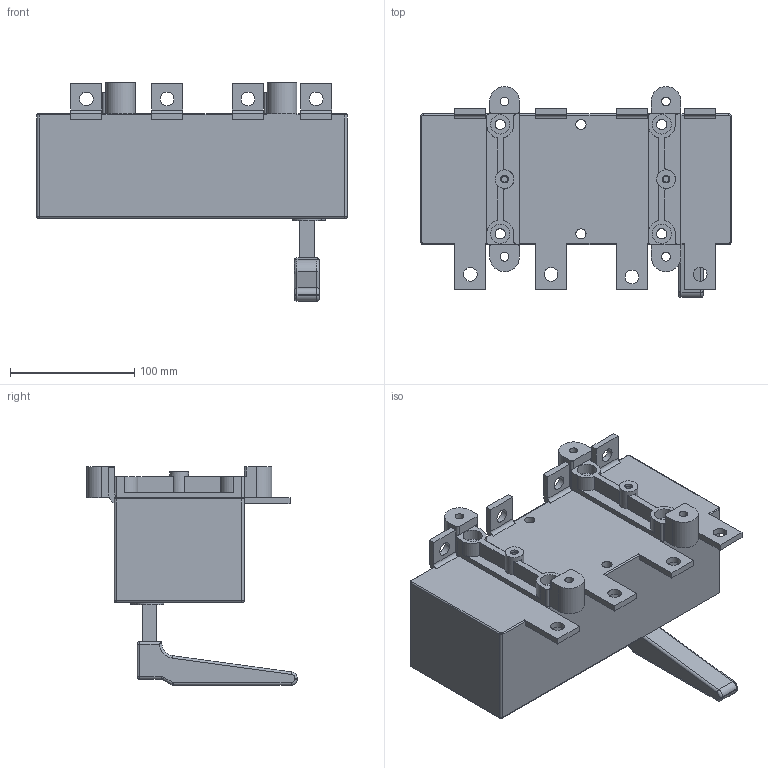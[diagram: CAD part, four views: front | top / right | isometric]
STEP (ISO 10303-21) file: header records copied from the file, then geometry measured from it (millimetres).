
FILE_DESCRIPTION(/* description */ (''),/* implementation_level */ '2;1');
FILE_NAME(/* name */ 'RA630 P3 NB-R.stp',/* time_stamp */ '2021-08-19T08:33:12+02:00',/* author */ (''),/* organization */ (''),/* preprocessor_version */ 'ST-DEVELOPER v18.1',/* originating_system */ 'SIEMENS PLM Software NX 1965',/* authorisation */ '');
FILE_SCHEMA (('AUTOMOTIVE_DESIGN { 1 0 10303 214 3 1 1 1 }'));
Length unit declared in the file: millimetre
Products named in the file (1): RA630 P3 NB-R_stp
Bounding box: 250 x 169.5 x 176 mm (x, y, z)
Volume: 2340811.9 mm3; surface area: 176012.2 mm2
Topology: 1 solids, 1 shells, 260 faces, 681 edges, 432 vertices
Faces by surface type: cylinder 121, plane 117, torus 13, sphere 6, bspline 3
Full cylindrical faces by diameter (mm): 4.8 x2, 6.2 x2, 7 x4, 8.2 x6, 11 x8, 14 x4, 15 x2, 15.5 x4
Entity records: 7926 total; most frequent: DIRECTION 1413, CARTESIAN_POINT 1405, ORIENTED_EDGE 1278, EDGE_CURVE 639, AXIS2_PLACEMENT_3D 520, VERTEX_POINT 428, LINE 373, VECTOR 373
